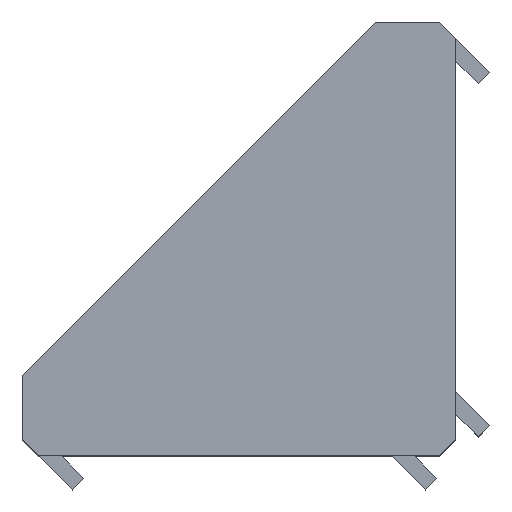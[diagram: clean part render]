
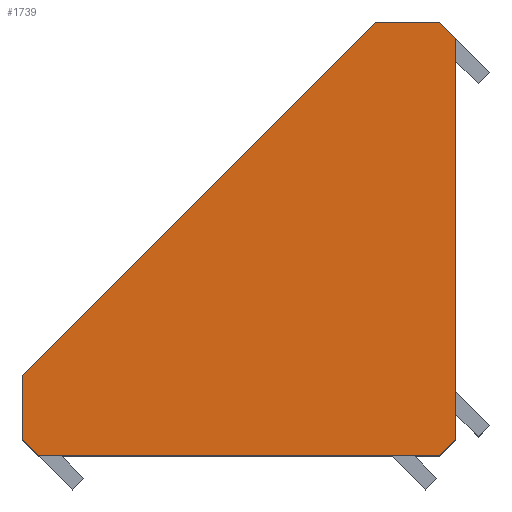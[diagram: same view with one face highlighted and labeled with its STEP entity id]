
A CAD part, top view. The second image highlights one B-rep face of the part: STEP entity #1739.
In plain terms, the highlighted planar face has unit normal (0, 0, 1).
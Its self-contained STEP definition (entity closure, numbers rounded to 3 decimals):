
#65=FACE_OUTER_BOUND('',#162,.T.);
#162=EDGE_LOOP('',(#1405,#1406,#1407,#1408,#1409,#1410,#1411,#1412));
#221=LINE('',#2353,#468);
#251=LINE('',#2414,#498);
#278=LINE('',#2469,#525);
#309=LINE('',#2529,#556);
#331=LINE('',#2571,#578);
#341=LINE('',#2589,#588);
#364=LINE('',#2629,#611);
#413=LINE('',#2720,#660);
#468=VECTOR('',#1912,1000.);
#498=VECTOR('',#1944,1000.);
#525=VECTOR('',#1983,1000.);
#556=VECTOR('',#2026,1000.);
#578=VECTOR('',#2062,1000.);
#588=VECTOR('',#2076,1000.);
#611=VECTOR('',#2103,1000.);
#660=VECTOR('',#2190,1000.);
#715=VERTEX_POINT('',#2350);
#716=VERTEX_POINT('',#2352);
#745=VERTEX_POINT('',#2411);
#746=VERTEX_POINT('',#2413);
#767=VERTEX_POINT('',#2466);
#768=VERTEX_POINT('',#2468);
#804=VERTEX_POINT('',#2570);
#825=VERTEX_POINT('',#2628);
#877=EDGE_CURVE('',#716,#715,#221,.T.);
#907=EDGE_CURVE('',#746,#745,#251,.T.);
#934=EDGE_CURVE('',#768,#767,#278,.T.);
#965=EDGE_CURVE('',#745,#716,#309,.T.);
#987=EDGE_CURVE('',#804,#746,#331,.T.);
#997=EDGE_CURVE('',#767,#804,#341,.T.);
#1020=EDGE_CURVE('',#825,#768,#364,.T.);
#1069=EDGE_CURVE('',#715,#825,#413,.T.);
#1405=ORIENTED_EDGE('',*,*,#877,.T.);
#1406=ORIENTED_EDGE('',*,*,#1069,.T.);
#1407=ORIENTED_EDGE('',*,*,#1020,.T.);
#1408=ORIENTED_EDGE('',*,*,#934,.T.);
#1409=ORIENTED_EDGE('',*,*,#997,.T.);
#1410=ORIENTED_EDGE('',*,*,#987,.T.);
#1411=ORIENTED_EDGE('',*,*,#907,.T.);
#1412=ORIENTED_EDGE('',*,*,#965,.T.);
#1649=PLANE('',#1849);
#1739=ADVANCED_FACE('',(#65),#1649,.T.);
#1849=AXIS2_PLACEMENT_3D('',#2719,#2188,#2189);
#1912=DIRECTION('',(1.,0.,0.));
#1944=DIRECTION('',(0.,-1.,0.));
#1983=DIRECTION('',(-0.707,0.707,0.));
#2026=DIRECTION('',(0.707,-0.707,0.));
#2062=DIRECTION('',(-0.707,-0.707,0.));
#2076=DIRECTION('',(-1.,0.,0.));
#2103=DIRECTION('',(0.,1.,0.));
#2188=DIRECTION('center_axis',(0.,0.,1.));
#2189=DIRECTION('ref_axis',(1.,0.,0.));
#2190=DIRECTION('',(0.707,0.707,0.));
#2350=CARTESIAN_POINT('',(26.,59.946,13.));
#2352=CARTESIAN_POINT('',(1.,59.946,13.));
#2353=CARTESIAN_POINT('',(1.,59.946,13.));
#2411=CARTESIAN_POINT('',(0.,60.946,13.));
#2413=CARTESIAN_POINT('',(0.,64.946,13.));
#2414=CARTESIAN_POINT('',(0.,64.946,13.));
#2466=CARTESIAN_POINT('',(26.,86.946,13.));
#2468=CARTESIAN_POINT('',(27.,85.946,13.));
#2469=CARTESIAN_POINT('',(27.,85.946,13.));
#2529=CARTESIAN_POINT('',(0.,60.946,13.));
#2570=CARTESIAN_POINT('',(22.,86.946,13.));
#2571=CARTESIAN_POINT('',(22.,86.946,13.));
#2589=CARTESIAN_POINT('',(26.,86.946,13.));
#2628=CARTESIAN_POINT('',(27.,60.946,13.));
#2629=CARTESIAN_POINT('',(27.,59.946,13.));
#2719=CARTESIAN_POINT('Origin',(24.,88.946,13.));
#2720=CARTESIAN_POINT('',(39.5,73.446,13.));
